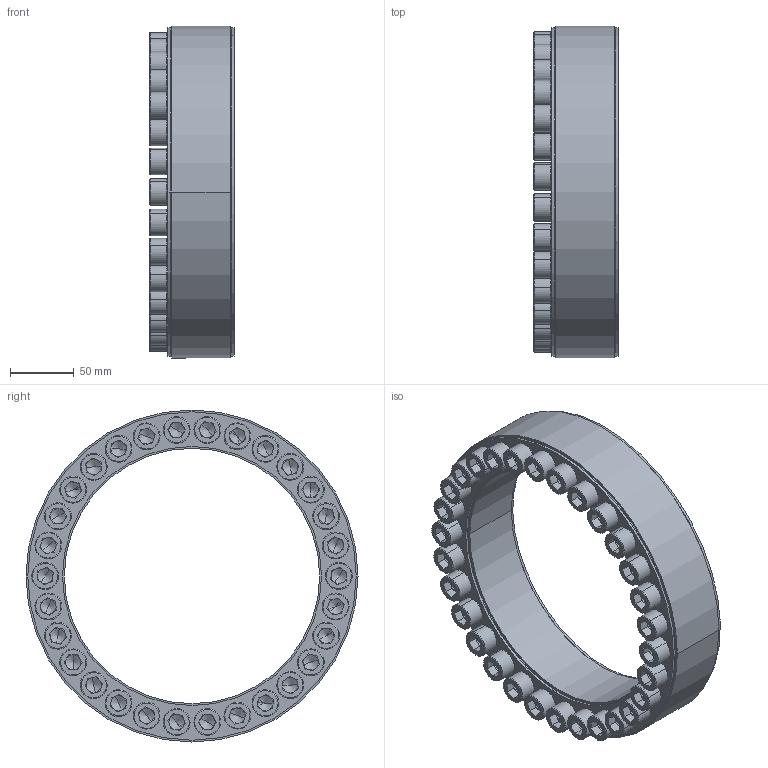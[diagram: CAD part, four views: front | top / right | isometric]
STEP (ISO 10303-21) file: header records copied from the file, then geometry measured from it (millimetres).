
FILE_DESCRIPTION (( 'STEP AP203' ), '1' );
FILE_NAME ('SAPL-D1-200-260.STEP', '2018-12-15T01:58:09', ( '' ), ( '' ), 'SwSTEP 2.0', 'SolidWorks 2015', '' );
FILE_SCHEMA (( 'CONFIG_CONTROL_DESIGN' ));
Length unit declared in the file: millimetre
Products named in the file (1): SAPL-D1-200-260
Bounding box: 66 x 260 x 260 mm (x, y, z)
Surface area: 248181.2 mm2 (no closed solid volume)
Topology: 0 solids, 65 shells, 730 faces, 1914 edges, 1148 vertices
Faces by surface type: plane 348, cylinder 192, torus 120, cone 70
Entity records: 21853 total; most frequent: DIRECTION 4194, CARTESIAN_POINT 3733, ORIENTED_EDGE 3228, EDGE_CURVE 1854, AXIS2_PLACEMENT_3D 1609, VERTEX_POINT 1148, LINE 976, VECTOR 976
